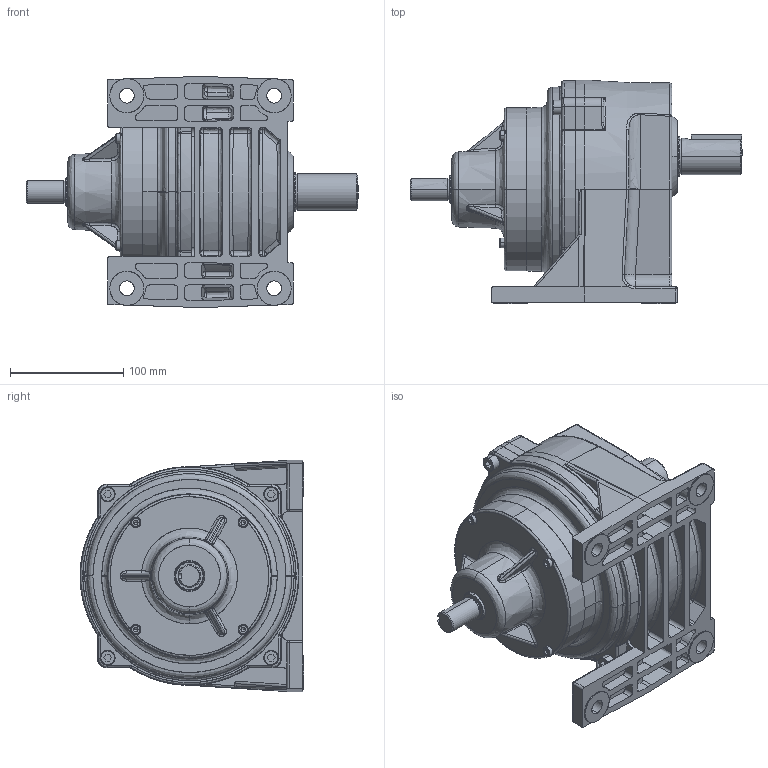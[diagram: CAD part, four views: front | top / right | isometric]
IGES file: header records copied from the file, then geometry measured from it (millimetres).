
Start section: SolidWorks IGES file using analytic representation for surfaces
Bounding box: 293 x 197.5 x 204 mm (x, y, z)
Surface area: 330124.4 mm2 (no closed solid volume)
Topology: 0 solids, 0 shells, 827 faces, 10240 edges, 10229 vertices
Faces by surface type: bspline 488, revolution 339
